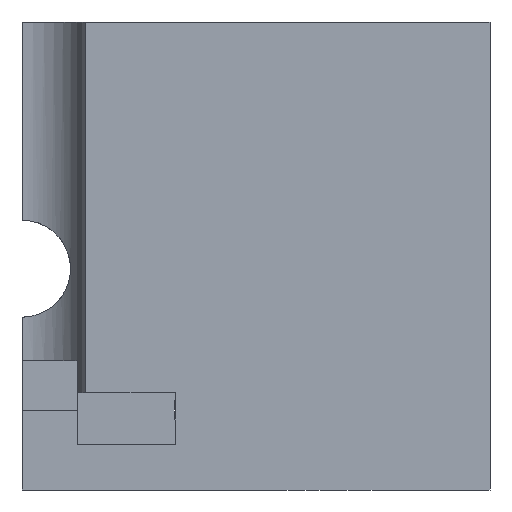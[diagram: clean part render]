
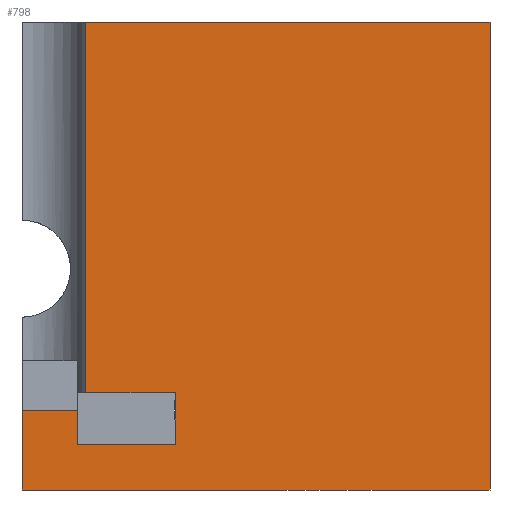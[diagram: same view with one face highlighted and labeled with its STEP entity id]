
A CAD part, front view. The second image highlights one B-rep face of the part: STEP entity #798.
In plain terms, the highlighted planar face has unit normal (0, -1, 0).
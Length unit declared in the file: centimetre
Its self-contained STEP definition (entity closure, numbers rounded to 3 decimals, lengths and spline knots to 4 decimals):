
#4 = DIRECTION ( 'NONE',  ( 1., 0., 0. ) ) ;
#21 = ORIENTED_EDGE ( 'NONE', *, *, #1367, .F. ) ;
#48 = VECTOR ( 'NONE', #1222, 100. ) ;
#55 = PLANE ( 'NONE',  #601 ) ;
#64 = VERTEX_POINT ( 'NONE', #186 ) ;
#84 = VECTOR ( 'NONE', #980, 100. ) ;
#125 = EDGE_CURVE ( 'NONE', #1516, #64, #957, .T. ) ;
#136 = DIRECTION ( 'NONE',  ( 0., 0., 1. ) ) ;
#138 = VECTOR ( 'NONE', #4, 100. ) ;
#186 = CARTESIAN_POINT ( 'NONE',  ( 327.9361, 0., 98.053 ) ) ;
#200 = ORIENTED_EDGE ( 'NONE', *, *, #1855, .F. ) ;
#231 = VERTEX_POINT ( 'NONE', #1735 ) ;
#256 = ORIENTED_EDGE ( 'NONE', *, *, #1873, .F. ) ;
#259 = DIRECTION ( 'NONE',  ( 0., 0., -1. ) ) ;
#289 = CARTESIAN_POINT ( 'NONE',  ( 0., 0., 169.903 ) ) ;
#291 = VERTEX_POINT ( 'NONE', #1059 ) ;
#317 = VERTEX_POINT ( 'NONE', #606 ) ;
#323 = CARTESIAN_POINT ( 'NONE',  ( 135.7325, 0., 207.514 ) ) ;
#480 = EDGE_CURVE ( 'NONE', #291, #1516, #1965, .T. ) ;
#482 = CARTESIAN_POINT ( 'NONE',  ( 0., 0., 1000. ) ) ;
#491 = CARTESIAN_POINT ( 'NONE',  ( 117.6452, 0., 98.053 ) ) ;
#543 = VECTOR ( 'NONE', #1875, 100. ) ;
#598 = VERTEX_POINT ( 'NONE', #323 ) ;
#601 = AXIS2_PLACEMENT_3D ( 'NONE', #1168, #1732, #1883 ) ;
#606 = CARTESIAN_POINT ( 'NONE',  ( 1000., 0., 1000. ) ) ;
#615 = CARTESIAN_POINT ( 'NONE',  ( 117.6452, 0., 98.053 ) ) ;
#626 = CARTESIAN_POINT ( 'NONE',  ( 327.9361, 0., 207.514 ) ) ;
#627 = LINE ( 'NONE', #1393, #833 ) ;
#689 = CARTESIAN_POINT ( 'NONE',  ( 0., 0., 0. ) ) ;
#694 = ORIENTED_EDGE ( 'NONE', *, *, #857, .T. ) ;
#759 = VERTEX_POINT ( 'NONE', #689 ) ;
#798 = ADVANCED_FACE ( 'NONE', ( #1909 ), #55, .F. ) ;
#803 = ORIENTED_EDGE ( 'NONE', *, *, #480, .F. ) ;
#833 = VECTOR ( 'NONE', #1137, 100. ) ;
#841 = EDGE_CURVE ( 'NONE', #1854, #759, #1356, .T. ) ;
#845 = CARTESIAN_POINT ( 'NONE',  ( 0., 0., 0. ) ) ;
#857 = EDGE_CURVE ( 'NONE', #1913, #598, #1468, .T. ) ;
#881 = DIRECTION ( 'NONE',  ( 0., 0., -1. ) ) ;
#884 = LINE ( 'NONE', #845, #1829 ) ;
#909 = LINE ( 'NONE', #1503, #1586 ) ;
#946 = EDGE_LOOP ( 'NONE', ( #1320, #803, #21, #1139, #1520, #256, #1288, #694, #1072, #200 ) ) ;
#957 = LINE ( 'NONE', #1419, #1605 ) ;
#980 = DIRECTION ( 'NONE',  ( 1., 0., 0. ) ) ;
#1059 = CARTESIAN_POINT ( 'NONE',  ( 117.6452, 0., 169.903 ) ) ;
#1069 = VERTEX_POINT ( 'NONE', #626 ) ;
#1072 = ORIENTED_EDGE ( 'NONE', *, *, #1459, .F. ) ;
#1137 = DIRECTION ( 'NONE',  ( -1., 0., 0. ) ) ;
#1139 = ORIENTED_EDGE ( 'NONE', *, *, #841, .T. ) ;
#1141 = LINE ( 'NONE', #1564, #543 ) ;
#1155 = VECTOR ( 'NONE', #259, 100. ) ;
#1168 = CARTESIAN_POINT ( 'NONE',  ( 0., 0., 1000. ) ) ;
#1222 = DIRECTION ( 'NONE',  ( 0., 0., -1. ) ) ;
#1288 = ORIENTED_EDGE ( 'NONE', *, *, #1401, .F. ) ;
#1320 = ORIENTED_EDGE ( 'NONE', *, *, #125, .F. ) ;
#1356 = LINE ( 'NONE', #1647, #1768 ) ;
#1367 = EDGE_CURVE ( 'NONE', #1854, #291, #1567, .T. ) ;
#1393 = CARTESIAN_POINT ( 'NONE',  ( 117.6452, 0., 207.514 ) ) ;
#1401 = EDGE_CURVE ( 'NONE', #1913, #317, #1694, .T. ) ;
#1410 = DIRECTION ( 'NONE',  ( 1., 0., 0. ) ) ;
#1419 = CARTESIAN_POINT ( 'NONE',  ( 117.6452, 0., 98.053 ) ) ;
#1459 = EDGE_CURVE ( 'NONE', #1069, #598, #627, .T. ) ;
#1468 = LINE ( 'NONE', #1924, #1155 ) ;
#1503 = CARTESIAN_POINT ( 'NONE',  ( 327.9361, 0., 98.053 ) ) ;
#1516 = VERTEX_POINT ( 'NONE', #491 ) ;
#1520 = ORIENTED_EDGE ( 'NONE', *, *, #1658, .T. ) ;
#1564 = CARTESIAN_POINT ( 'NONE',  ( 1000., 0., 1000. ) ) ;
#1567 = LINE ( 'NONE', #1728, #138 ) ;
#1586 = VECTOR ( 'NONE', #136, 100. ) ;
#1605 = VECTOR ( 'NONE', #1410, 100. ) ;
#1621 = DIRECTION ( 'NONE',  ( 1., 0., 0. ) ) ;
#1647 = CARTESIAN_POINT ( 'NONE',  ( 0., 0., 1000. ) ) ;
#1658 = EDGE_CURVE ( 'NONE', #759, #231, #884, .T. ) ;
#1694 = LINE ( 'NONE', #482, #84 ) ;
#1728 = CARTESIAN_POINT ( 'NONE',  ( 0., 0., 169.903 ) ) ;
#1732 = DIRECTION ( 'NONE',  ( 0., 1., 0. ) ) ;
#1735 = CARTESIAN_POINT ( 'NONE',  ( 1000., 0., 0. ) ) ;
#1745 = CARTESIAN_POINT ( 'NONE',  ( 135.7325, 0., 1000. ) ) ;
#1768 = VECTOR ( 'NONE', #881, 100. ) ;
#1829 = VECTOR ( 'NONE', #1621, 100. ) ;
#1854 = VERTEX_POINT ( 'NONE', #289 ) ;
#1855 = EDGE_CURVE ( 'NONE', #64, #1069, #909, .T. ) ;
#1873 = EDGE_CURVE ( 'NONE', #317, #231, #1141, .T. ) ;
#1875 = DIRECTION ( 'NONE',  ( 0., 0., -1. ) ) ;
#1883 = DIRECTION ( 'NONE',  ( 0., 0., 1. ) ) ;
#1909 = FACE_OUTER_BOUND ( 'NONE', #946, .T. ) ;
#1913 = VERTEX_POINT ( 'NONE', #1745 ) ;
#1924 = CARTESIAN_POINT ( 'NONE',  ( 135.7325, 0., 169.903 ) ) ;
#1965 = LINE ( 'NONE', #615, #48 ) ;
